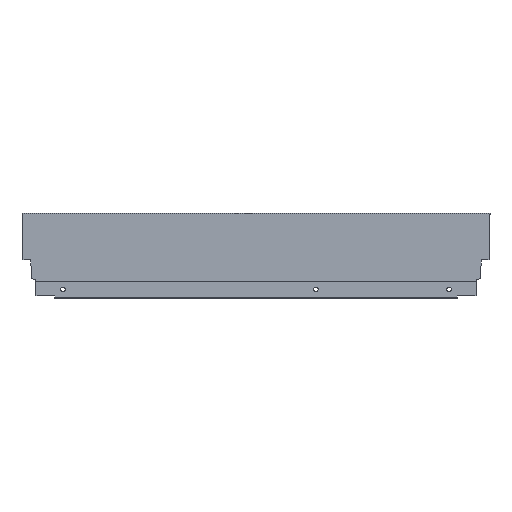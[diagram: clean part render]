
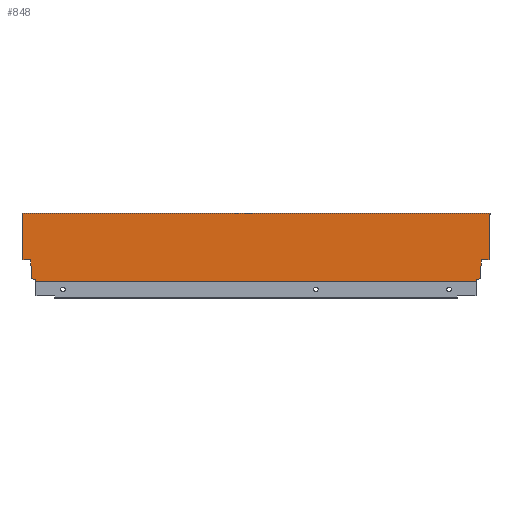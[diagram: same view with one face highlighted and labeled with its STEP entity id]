
A CAD part, top view. The second image highlights one B-rep face of the part: STEP entity #848.
In plain terms, the highlighted planar face has unit normal (0, 0, 1).
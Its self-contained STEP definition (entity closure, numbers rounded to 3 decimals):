
#40 = VECTOR ( 'NONE', #1081, 1000. ) ;
#43 = LINE ( 'NONE', #1075, #40 ) ;
#202 = LINE ( 'NONE', #1295, #255 ) ;
#242 = LINE ( 'NONE', #1307, #269 ) ;
#244 = LINE ( 'NONE', #1321, #275 ) ;
#249 = LINE ( 'NONE', #1301, #250 ) ;
#250 = VECTOR ( 'NONE', #1302, 1000. ) ;
#251 = LINE ( 'NONE', #1303, #252 ) ;
#252 = VECTOR ( 'NONE', #1304, 1000. ) ;
#253 = LINE ( 'NONE', #1305, #254 ) ;
#254 = VECTOR ( 'NONE', #1306, 1000. ) ;
#255 = VECTOR ( 'NONE', #1308, 1000. ) ;
#256 = VECTOR ( 'NONE', #1340, 1000. ) ;
#257 = LINE ( 'NONE', #1309, #258 ) ;
#258 = VECTOR ( 'NONE', #1310, 1000. ) ;
#259 = LINE ( 'NONE', #1311, #260 ) ;
#260 = VECTOR ( 'NONE', #1312, 1000. ) ;
#261 = LINE ( 'NONE', #1313, #262 ) ;
#262 = VECTOR ( 'NONE', #1314, 1000. ) ;
#263 = LINE ( 'NONE', #1315, #264 ) ;
#264 = VECTOR ( 'NONE', #1316, 1000. ) ;
#265 = LINE ( 'NONE', #1317, #266 ) ;
#266 = VECTOR ( 'NONE', #1318, 1000. ) ;
#267 = LINE ( 'NONE', #1319, #268 ) ;
#268 = VECTOR ( 'NONE', #1320, 1000. ) ;
#269 = VECTOR ( 'NONE', #1322, 1000. ) ;
#270 = LINE ( 'NONE', #1339, #256 ) ;
#271 = LINE ( 'NONE', #1323, #272 ) ;
#272 = VECTOR ( 'NONE', #1324, 1000. ) ;
#273 = LINE ( 'NONE', #1326, #274 ) ;
#274 = VECTOR ( 'NONE', #1327, 1000. ) ;
#275 = VECTOR ( 'NONE', #1329, 1000. ) ;
#277 = LINE ( 'NONE', #1330, #278 ) ;
#278 = VECTOR ( 'NONE', #1331, 1000. ) ;
#279 = LINE ( 'NONE', #1332, #280 ) ;
#280 = VECTOR ( 'NONE', #1333, 1000. ) ;
#355 = FACE_OUTER_BOUND ( 'NONE', #462, .T. ) ;
#389 = EDGE_CURVE ( 'NONE', #979, #978, #43, .T. ) ;
#394 = ORIENTED_EDGE ( 'NONE', *, *, #389, .F. ) ;
#396 = ORIENTED_EDGE ( 'NONE', *, *, #708, .F. ) ;
#397 = ORIENTED_EDGE ( 'NONE', *, *, #712, .F. ) ;
#399 = ORIENTED_EDGE ( 'NONE', *, *, #711, .F. ) ;
#405 = ORIENTED_EDGE ( 'NONE', *, *, #709, .F. ) ;
#407 = ORIENTED_EDGE ( 'NONE', *, *, #710, .F. ) ;
#410 = ORIENTED_EDGE ( 'NONE', *, *, #719, .T. ) ;
#412 = ORIENTED_EDGE ( 'NONE', *, *, #718, .F. ) ;
#413 = ORIENTED_EDGE ( 'NONE', *, *, #713, .F. ) ;
#414 = ORIENTED_EDGE ( 'NONE', *, *, #717, .T. ) ;
#415 = ORIENTED_EDGE ( 'NONE', *, *, #704, .F. ) ;
#416 = ORIENTED_EDGE ( 'NONE', *, *, #715, .F. ) ;
#418 = ORIENTED_EDGE ( 'NONE', *, *, #722, .F. ) ;
#421 = ORIENTED_EDGE ( 'NONE', *, *, #716, .T. ) ;
#431 = ORIENTED_EDGE ( 'NONE', *, *, #705, .F. ) ;
#435 = ORIENTED_EDGE ( 'NONE', *, *, #706, .F. ) ;
#437 = ORIENTED_EDGE ( 'NONE', *, *, #714, .F. ) ;
#440 = ORIENTED_EDGE ( 'NONE', *, *, #707, .F. ) ;
#462 = EDGE_LOOP ( 'NONE', ( #413, #412, #414, #421, #416, #418, #399, #437, #405, #410, #440, #431, #397, #407, #396, #394, #435, #415 ) ) ;
#704 = EDGE_CURVE ( 'NONE', #1008, #1028, #249, .T. ) ;
#705 = EDGE_CURVE ( 'NONE', #992, #988, #251, .T. ) ;
#706 = EDGE_CURVE ( 'NONE', #1028, #979, #253, .T. ) ;
#707 = EDGE_CURVE ( 'NONE', #988, #1012, #202, .T. ) ;
#708 = EDGE_CURVE ( 'NONE', #978, #1014, #257, .T. ) ;
#709 = EDGE_CURVE ( 'NONE', #1017, #990, #259, .T. ) ;
#710 = EDGE_CURVE ( 'NONE', #1014, #1003, #261, .T. ) ;
#711 = EDGE_CURVE ( 'NONE', #1010, #1016, #263, .T. ) ;
#712 = EDGE_CURVE ( 'NONE', #1003, #992, #265, .T. ) ;
#713 = EDGE_CURVE ( 'NONE', #1004, #1008, #267, .T. ) ;
#714 = EDGE_CURVE ( 'NONE', #990, #1010, #242, .T. ) ;
#715 = EDGE_CURVE ( 'NONE', #995, #1057, #271, .T. ) ;
#716 = EDGE_CURVE ( 'NONE', #1024, #1057, #273, .T. ) ;
#717 = EDGE_CURVE ( 'NONE', #1051, #1024, #244, .T. ) ;
#718 = EDGE_CURVE ( 'NONE', #1051, #1004, #277, .T. ) ;
#719 = EDGE_CURVE ( 'NONE', #1017, #1012, #279, .T. ) ;
#722 = EDGE_CURVE ( 'NONE', #1016, #995, #270, .T. ) ;
#790 = AXIS2_PLACEMENT_3D ( 'NONE', #1530, #1544, #1545 ) ;
#848 = ADVANCED_FACE ( 'NONE', ( #355 ), #1541, .T. ) ;
#978 = VERTEX_POINT ( 'NONE', #1573 ) ;
#979 = VERTEX_POINT ( 'NONE', #1574 ) ;
#988 = VERTEX_POINT ( 'NONE', #1583 ) ;
#990 = VERTEX_POINT ( 'NONE', #1585 ) ;
#992 = VERTEX_POINT ( 'NONE', #1587 ) ;
#995 = VERTEX_POINT ( 'NONE', #1590 ) ;
#1003 = VERTEX_POINT ( 'NONE', #1598 ) ;
#1004 = VERTEX_POINT ( 'NONE', #1599 ) ;
#1008 = VERTEX_POINT ( 'NONE', #1603 ) ;
#1010 = VERTEX_POINT ( 'NONE', #1605 ) ;
#1012 = VERTEX_POINT ( 'NONE', #1607 ) ;
#1014 = VERTEX_POINT ( 'NONE', #1609 ) ;
#1016 = VERTEX_POINT ( 'NONE', #1611 ) ;
#1017 = VERTEX_POINT ( 'NONE', #1612 ) ;
#1024 = VERTEX_POINT ( 'NONE', #1619 ) ;
#1028 = VERTEX_POINT ( 'NONE', #1623 ) ;
#1051 = VERTEX_POINT ( 'NONE', #1646 ) ;
#1057 = VERTEX_POINT ( 'NONE', #1652 ) ;
#1075 = CARTESIAN_POINT ( 'NONE',  ( 0., 0., 7.5 ) ) ;
#1081 = DIRECTION ( 'NONE',  ( 0., -1., 0. ) ) ;
#1295 = CARTESIAN_POINT ( 'NONE',  ( -13.004, 1.146, 7.5 ) ) ;
#1301 = CARTESIAN_POINT ( 'NONE',  ( 1., 68., 7.5 ) ) ;
#1302 = DIRECTION ( 'NONE',  ( 0., -1., 0. ) ) ;
#1303 = CARTESIAN_POINT ( 'NONE',  ( -8.9, 2.64, 7.5 ) ) ;
#1304 = DIRECTION ( 'NONE',  ( -0.94, -0.342, 0. ) ) ;
#1305 = CARTESIAN_POINT ( 'NONE',  ( 1., 66.5, 7.5 ) ) ;
#1306 = DIRECTION ( 'NONE',  ( -1., 0., 0. ) ) ;
#1307 = CARTESIAN_POINT ( 'NONE',  ( -458.1, 2.64, 7.5 ) ) ;
#1308 = DIRECTION ( 'NONE',  ( 0., -1., 0. ) ) ;
#1309 = CARTESIAN_POINT ( 'NONE',  ( 0., 21.2, 7.5 ) ) ;
#1310 = DIRECTION ( 'NONE',  ( -1., 0., 0. ) ) ;
#1311 = CARTESIAN_POINT ( 'NONE',  ( -453.996, 1.146, 7.5 ) ) ;
#1312 = DIRECTION ( 'NONE',  ( 0., 1., 0. ) ) ;
#1313 = CARTESIAN_POINT ( 'NONE',  ( -7.06, 21.2, 7.5 ) ) ;
#1314 = DIRECTION ( 'NONE',  ( -0.174, -0.985, 0. ) ) ;
#1315 = CARTESIAN_POINT ( 'NONE',  ( -458.1, 10.765, 7.5 ) ) ;
#1316 = DIRECTION ( 'NONE',  ( 0., 1., 0. ) ) ;
#1317 = CARTESIAN_POINT ( 'NONE',  ( -8.9, 10.765, 7.5 ) ) ;
#1318 = DIRECTION ( 'NONE',  ( 0., -1., 0. ) ) ;
#1319 = CARTESIAN_POINT ( 'NONE',  ( -467., 68., 7.5 ) ) ;
#1320 = DIRECTION ( 'NONE',  ( 1., 0., 0. ) ) ;
#1321 = CARTESIAN_POINT ( 'NONE',  ( -468., 66.5, 7.5 ) ) ;
#1322 = DIRECTION ( 'NONE',  ( -0.94, 0.342, 0. ) ) ;
#1323 = CARTESIAN_POINT ( 'NONE',  ( -472., 21.2, 7.5 ) ) ;
#1324 = DIRECTION ( 'NONE',  ( -1., 0., 0. ) ) ;
#1326 = CARTESIAN_POINT ( 'NONE',  ( -467., 0., 7.5 ) ) ;
#1327 = DIRECTION ( 'NONE',  ( 0., -1., 0. ) ) ;
#1329 = DIRECTION ( 'NONE',  ( 1., 0., 0. ) ) ;
#1330 = CARTESIAN_POINT ( 'NONE',  ( -468., 66.5, 7.5 ) ) ;
#1331 = DIRECTION ( 'NONE',  ( 0., 1., 0. ) ) ;
#1332 = CARTESIAN_POINT ( 'NONE',  ( -467., 0., 7.5 ) ) ;
#1333 = DIRECTION ( 'NONE',  ( 1., 0., 0. ) ) ;
#1339 = CARTESIAN_POINT ( 'NONE',  ( -459.94, 21.2, 7.5 ) ) ;
#1340 = DIRECTION ( 'NONE',  ( -0.174, 0.985, 0. ) ) ;
#1530 = CARTESIAN_POINT ( 'NONE',  ( -467., 0., 7.5 ) ) ;
#1541 = PLANE ( 'NONE',  #790 ) ;
#1544 = DIRECTION ( 'NONE',  ( 0., 0., 1. ) ) ;
#1545 = DIRECTION ( 'NONE',  ( 1., 0., 0. ) ) ;
#1573 = CARTESIAN_POINT ( 'NONE',  ( 0., 21.2, 7.5 ) ) ;
#1574 = CARTESIAN_POINT ( 'NONE',  ( 0., 66.5, 7.5 ) ) ;
#1583 = CARTESIAN_POINT ( 'NONE',  ( -13.004, 1.146, 7.5 ) ) ;
#1585 = CARTESIAN_POINT ( 'NONE',  ( -453.996, 1.146, 7.5 ) ) ;
#1587 = CARTESIAN_POINT ( 'NONE',  ( -8.9, 2.64, 7.5 ) ) ;
#1590 = CARTESIAN_POINT ( 'NONE',  ( -459.94, 21.2, 7.5 ) ) ;
#1598 = CARTESIAN_POINT ( 'NONE',  ( -8.9, 10.765, 7.5 ) ) ;
#1599 = CARTESIAN_POINT ( 'NONE',  ( -468., 68., 7.5 ) ) ;
#1603 = CARTESIAN_POINT ( 'NONE',  ( 1., 68., 7.5 ) ) ;
#1605 = CARTESIAN_POINT ( 'NONE',  ( -458.1, 2.64, 7.5 ) ) ;
#1607 = CARTESIAN_POINT ( 'NONE',  ( -13.004, 0., 7.5 ) ) ;
#1609 = CARTESIAN_POINT ( 'NONE',  ( -7.06, 21.2, 7.5 ) ) ;
#1611 = CARTESIAN_POINT ( 'NONE',  ( -458.1, 10.765, 7.5 ) ) ;
#1612 = CARTESIAN_POINT ( 'NONE',  ( -453.996, 0., 7.5 ) ) ;
#1619 = CARTESIAN_POINT ( 'NONE',  ( -467., 66.5, 7.5 ) ) ;
#1623 = CARTESIAN_POINT ( 'NONE',  ( 1., 66.5, 7.5 ) ) ;
#1646 = CARTESIAN_POINT ( 'NONE',  ( -468., 66.5, 7.5 ) ) ;
#1652 = CARTESIAN_POINT ( 'NONE',  ( -467., 21.2, 7.5 ) ) ;
